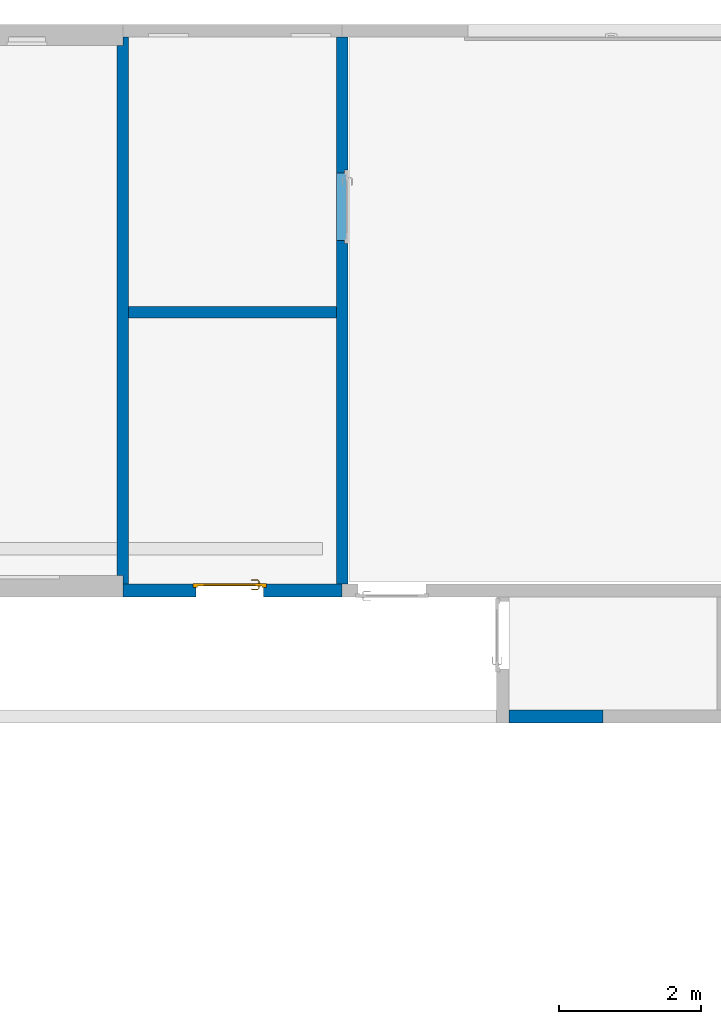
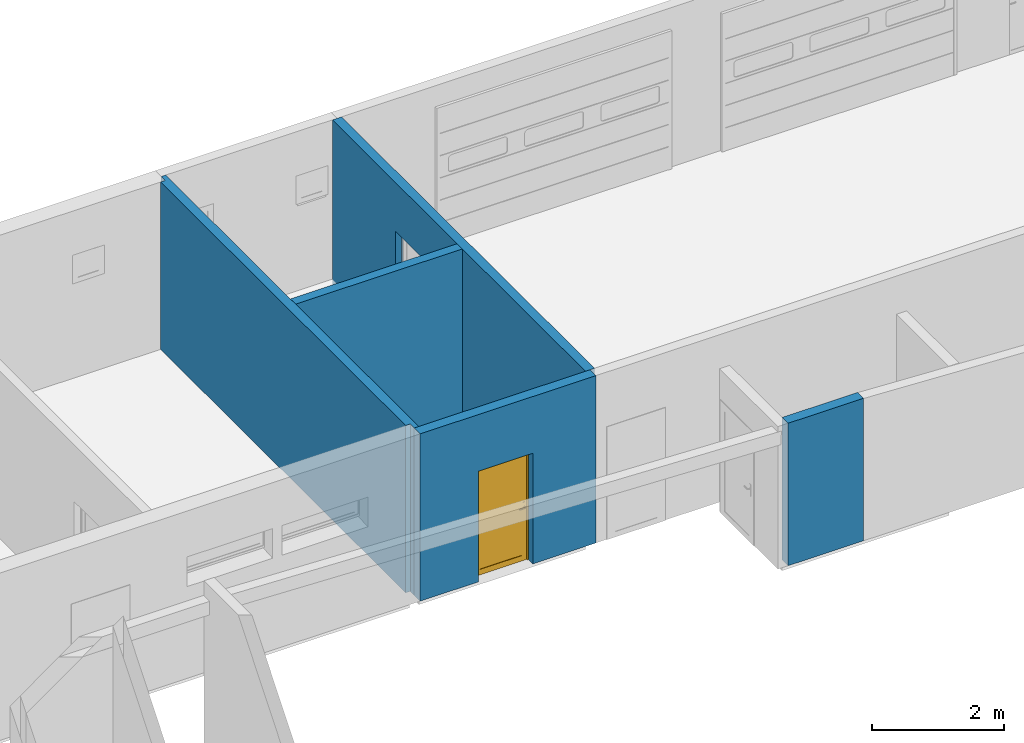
# One storey, part 3 of 9: 5 walls, 1 door, 2 openings.
"""IFC2X3 building model written with IfcOpenShell, lengths in metres."""

import ifcopenshell
import ifcopenshell.guid

model = None  # the IFC model being written
_history = None  # IfcOwnerHistory: only IFC2X3 demands one
_inside = {}  # id of a spatial element -> (the spatial element, [elements in it])
_under = {}  # id of a project, library or spatial element -> (it, [spatial elements below it])
_declared = {}  # id of a project -> (the project, [libraries it declares])
_typed = {}  # id of a type object -> (the type object, [elements of that type])
_made_of = {}  # id of a material, layer set ... -> (it, [elements and type objects made of it])


def new_model(schema):
    """Start an empty IFC model of exactly this schema.

    Asked for "IFC4X3", IfcOpenShell would pick the latest addendum, in which some entities
    have other attributes; the version numbers below select the first issue.
    IFC2X3 requires an IfcOwnerHistory on every rooted entity: one is made here for all.
    """
    global model, _history
    if schema == "IFC4X3":
        model = ifcopenshell.file(schema_version=(4, 3, 0, 0))
    else:
        model = ifcopenshell.file(schema=schema)
    _inside.clear()
    _under.clear()
    _declared.clear()
    _typed.clear()
    _made_of.clear()
    _history = None
    if model.schema == "IFC2X3":
        org = make("IfcOrganization", Name="unknown")
        user = make(
            "IfcPersonAndOrganization",
            ThePerson=make("IfcPerson", FamilyName="unknown"),
            TheOrganization=org,
        )
        app = make(
            "IfcApplication",
            ApplicationDeveloper=org,
            Version="unknown",
            ApplicationFullName="unknown",
            ApplicationIdentifier="unknown",
        )
        _history = make(
            "IfcOwnerHistory",
            OwningUser=user,
            OwningApplication=app,
            ChangeAction="ADDED",
            CreationDate=0,
        )
    return model


def make(cls, **values):
    """One entity of the class cls with the attributes given. An attribute that is None is left unset."""
    return model.create_entity(
        cls, **{name: value for name, value in values.items() if value is not None}
    )


def entity(cls, *values):
    """Any entity or typed value of the class cls, its attributes in the order of the schema. None: left unset."""
    e = model.create_entity(cls)
    for i, value in enumerate(values):
        if value is not None:
            e[i] = value
    return e


def rooted(cls, **values):
    """An entity with a GlobalId (a new one), such as an element, a storey or a relation."""
    return make(cls, GlobalId=ifcopenshell.guid.new(), OwnerHistory=_history, **values)


def si_unit(unit_type, name, prefix=None):
    """IfcSIUnit, for example si_unit("LENGTHUNIT", "METRE", prefix="MILLI")."""
    return make("IfcSIUnit", UnitType=unit_type, Prefix=prefix, Name=name)


def converted_unit(unit_type, name, factor, base, dimensions=None, offset=None):
    """IfcConversionBasedUnit, such as the inch: factor (a typed value) times the base unit."""
    return make(
        "IfcConversionBasedUnit"
        if offset is None
        else "IfcConversionBasedUnitWithOffset",
        ConversionOffset=offset,
        Dimensions=None
        if dimensions is None
        else entity("IfcDimensionalExponents", *dimensions),
        UnitType=unit_type,
        Name=name,
        ConversionFactor=make(
            "IfcMeasureWithUnit", ValueComponent=factor, UnitComponent=base
        ),
    )


def derived_unit(unit_type, elements):
    """IfcDerivedUnit: a product of units, each with its exponent."""
    return make(
        "IfcDerivedUnit",
        Elements=[
            make("IfcDerivedUnitElement", Unit=unit, Exponent=power)
            for unit, power in elements
        ],
        UnitType=unit_type,
    )


def assignment(units):
    """IfcUnitAssignment: the units of a project."""
    return None if units is None else make("IfcUnitAssignment", Units=units)


def point(xyz):
    """IfcCartesianPoint."""
    return None if xyz is None else make("IfcCartesianPoint", Coordinates=xyz)


def direction(xyz):
    """IfcDirection."""
    return None if xyz is None else make("IfcDirection", DirectionRatios=xyz)


def frame(location, z_axis=None, x_axis=None):
    """IfcAxis2Placement3D, a coordinate frame: its origin and axes. An axis left out is left unset."""
    return make(
        "IfcAxis2Placement3D",
        Location=point(location),
        Axis=direction(z_axis),
        RefDirection=direction(x_axis),
    )


def frame_2d(location, x_axis=None):
    """IfcAxis2Placement2D, a coordinate frame in the plane: its origin and x axis."""
    return make(
        "IfcAxis2Placement2D", Location=point(location), RefDirection=direction(x_axis)
    )


def origin():
    """The frame at (0, 0, 0) with its axes left unset."""
    return frame((0.0, 0.0, 0.0))


def place(relative_to, where):
    """IfcLocalPlacement: puts the frame where relative to a parent placement (None: the world)."""
    return make(
        "IfcLocalPlacement", PlacementRelTo=relative_to, RelativePlacement=where
    )


def context(
    kind, dimensions, precision=None, world=None, true_north=None, identifier=None
):
    """IfcGeometricRepresentationContext, for example the 3D "Model" context."""
    return make(
        "IfcGeometricRepresentationContext",
        ContextIdentifier=identifier,
        ContextType=kind,
        CoordinateSpaceDimension=dimensions,
        Precision=precision,
        WorldCoordinateSystem=world,
        TrueNorth=true_north,
    )


def subcontext(parent, identifier, kind, view, scale=None):
    """IfcGeometricRepresentationSubContext, for example "Body" below "Model"."""
    return make(
        "IfcGeometricRepresentationSubContext",
        ContextIdentifier=identifier,
        ContextType=kind,
        ParentContext=parent,
        TargetScale=scale,
        TargetView=view,
    )


def project(units=None, contexts=None):
    """IfcProject with its units and contexts."""
    return rooted(
        "IfcProject",
        Name="project",
        RepresentationContexts=contexts,
        UnitsInContext=assignment(units),
    )


def spatial(cls, under=None, at=None, **own):
    """A site, building, storey or space (cls), placed at a placement, below another one or the project."""
    s = rooted(cls, ObjectPlacement=at, **own)
    if under is not None:
        _under.setdefault(under.id(), (under, []))[1].append(s)
    return s


def polyline(points):
    """IfcPolyline through the points."""
    return make("IfcPolyline", Points=[point(p) for p in points])


def profile(cls, at=None, kind="AREA", **sizes):
    """A parametric profile (cls). Its sizes go by their IFC names, for example OverallWidth=200.0."""
    return make(cls, ProfileType=kind, Position=at, **sizes)


def rectangle(**sizes):
    """IfcRectangleProfileDef."""
    return profile("IfcRectangleProfileDef", **sizes)


def outline(outer, holes=None, kind="AREA"):
    """IfcArbitraryClosedProfileDef: a profile drawn as a closed curve; with holes, ...WithVoids."""
    if holes is None:
        return make("IfcArbitraryClosedProfileDef", ProfileType=kind, OuterCurve=outer)
    return make(
        "IfcArbitraryProfileDefWithVoids",
        ProfileType=kind,
        OuterCurve=outer,
        InnerCurves=holes,
    )


def extrude(swept, where, along, depth):
    """IfcExtrudedAreaSolid: the profile swept, set in the frame where, extruded along a direction by depth."""
    return make(
        "IfcExtrudedAreaSolid",
        SweptArea=swept,
        Position=where,
        ExtrudedDirection=direction(along),
        Depth=depth,
    )


def clip(a, b, op="DIFFERENCE"):
    """IfcBooleanClippingResult: the solid a cut by the half space b."""
    return make(
        "IfcBooleanClippingResult", Operator=op, FirstOperand=a, SecondOperand=b
    )


def bounded_halfspace(plane, agree, where, boundary):
    """IfcPolygonalBoundedHalfSpace: a half space limited to a polygon's prism."""
    return make(
        "IfcPolygonalBoundedHalfSpace",
        BaseSurface=make("IfcPlane", Position=plane),
        AgreementFlag=agree,
        Position=where,
        PolygonalBoundary=boundary,
    )


def faces_of(points, faces, orient=None, outer=None):
    """IfcFace entities. A face is a list of loops; a loop is a list of indices into points, from 0.

    orient and outer hold one flag for each loop. By default every Orientation is true, the
    first loop of a face is its IfcFaceOuterBound and the others are IfcFaceBound.
    """
    made = []
    for i, loops in enumerate(faces):
        bounds = []
        for j, loop in enumerate(loops):
            is_outer = j == 0 if outer is None else outer[i][j]
            bounds.append(
                make(
                    "IfcFaceOuterBound" if is_outer else "IfcFaceBound",
                    Bound=make("IfcPolyLoop", Polygon=[points[k] for k in loop]),
                    Orientation=True if orient is None else orient[i][j],
                )
            )
        made.append(make("IfcFace", Bounds=bounds))
    return made


def faceted_brep(points, faces, orient=None, outer=None, voids=None):
    """IfcFacetedBrep: a solid bounded by flat faces; with voids (closed shells), ...WithVoids."""
    shared = [point(p) for p in points]
    hull = make("IfcClosedShell", CfsFaces=faces_of(shared, faces, orient, outer))
    if voids is None:
        return make("IfcFacetedBrep", Outer=hull)
    return make(
        "IfcFacetedBrepWithVoids",
        Outer=hull,
        Voids=[
            make(cls, CfsFaces=faces_of(shared, fs, o, b)) for cls, fs, o, b in voids
        ],
    )


def shape(context_of_items, identifier, shape_type, items):
    """IfcShapeRepresentation: the items that make up one representation, for example the "Body"."""
    return make(
        "IfcShapeRepresentation",
        ContextOfItems=context_of_items,
        RepresentationIdentifier=identifier,
        RepresentationType=shape_type,
        Items=items,
    )


def source(mapping_origin, context_of_items, identifier, shape_type, items):
    """IfcRepresentationMap: a shape defined once, which mapped items show again and again."""
    return make(
        "IfcRepresentationMap",
        MappingOrigin=mapping_origin,
        MappedRepresentation=shape(context_of_items, identifier, shape_type, items),
    )


def transform(
    local_origin,
    x_axis=None,
    y_axis=None,
    z_axis=None,
    scale=None,
    scale2=None,
    scale3=None,
    uniform=True,
):
    """IfcCartesianTransformationOperator3D, or its non-uniform kind. x_axis, y_axis, z_axis: its Axis1, 2, 3."""
    if uniform:
        return make(
            "IfcCartesianTransformationOperator3D",
            Axis1=direction(x_axis),
            Axis2=direction(y_axis),
            LocalOrigin=point(local_origin),
            Scale=scale,
            Axis3=direction(z_axis),
        )
    return make(
        "IfcCartesianTransformationOperator3DnonUniform",
        Axis1=direction(x_axis),
        Axis2=direction(y_axis),
        LocalOrigin=point(local_origin),
        Scale=scale,
        Axis3=direction(z_axis),
        Scale2=scale2,
        Scale3=scale3,
    )


def mapped(mapping_source, mapping_target):
    """IfcMappedItem: shows the shape of a source again, moved by a transform."""
    return make(
        "IfcMappedItem", MappingSource=mapping_source, MappingTarget=mapping_target
    )


def material(Name=None, Category=None):
    """IfcMaterial."""
    return make("IfcMaterial", Name=Name, Category=Category)


def layer(
    of_material, thickness, ventilated=None, Name=None, Category=None, Priority=None
):
    """IfcMaterialLayer: one layer of a wall or slab, of a material (None: an air gap)."""
    return make(
        "IfcMaterialLayer",
        Material=of_material,
        LayerThickness=thickness,
        IsVentilated=ventilated,
        Name=Name,
        Category=Category,
        Priority=Priority,
    )


def layer_set(layers, Name=None):
    """IfcMaterialLayerSet."""
    return make("IfcMaterialLayerSet", MaterialLayers=layers, LayerSetName=Name)


def layer_usage(for_layer_set, set_direction, sense, offset, extent=None):
    """IfcMaterialLayerSetUsage: how a layer set lies in its element."""
    return make(
        "IfcMaterialLayerSetUsage",
        ForLayerSet=for_layer_set,
        LayerSetDirection=set_direction,
        DirectionSense=sense,
        OffsetFromReferenceLine=offset,
        ReferenceExtent=extent,
    )


def made_of(thing, what):
    """Note that an element or type object is made of a material, layer set ...; save() writes the relation."""
    if what is not None:
        _made_of.setdefault(what.id(), (what, []))[1].append(thing)
    return thing


def type_object(cls, material=None, **own):
    """A type object (cls), such as IfcWallType, which elements share."""
    return made_of(rooted(cls, **own), material)


def type_shapes(of_type, sources):
    """Give a type object the sources (RepresentationMaps) that its elements show as mapped items."""
    of_type.RepresentationMaps = sources


def element(
    cls,
    number,
    at=None,
    inside=None,
    cuts=None,
    type_object=None,
    material=None,
    context=None,
    identifier="Body",
    shape_type=None,
    held_by="IfcProductDefinitionShape",
    body=None,
    shapes=None,
    **own,
):
    """One element of the class cls, such as IfcWall. Its Tag is "e" and its number.

    at: its placement. inside: the storey or other place that contains it. cuts: it is an
    opening in that element (IfcRelVoidsElement). A single representation is given by context,
    identifier, shape_type and body (its items); several are given by shapes. held_by: the class
    of the entity that holds the representations. save() writes the other relations.
    """
    e = rooted(cls, Tag="e%d" % number, ObjectPlacement=at, **own)
    if body is not None:
        shapes = [shape(context, identifier, shape_type, body)]
    if shapes is not None:
        e.Representation = make(held_by, Representations=shapes)
    if inside is not None:
        _inside.setdefault(inside.id(), (inside, []))[1].append(e)
    if cuts is not None:
        rooted(
            "IfcRelVoidsElement", RelatingBuildingElement=cuts, RelatedOpeningElement=e
        )
    if type_object is not None:
        _typed.setdefault(type_object.id(), (type_object, []))[1].append(e)
    return made_of(e, material)


def fill(opening, filler):
    """IfcRelFillsElement: the door or window that sits in an opening."""
    return rooted(
        "IfcRelFillsElement",
        RelatingOpeningElement=opening,
        RelatedBuildingElement=filler,
    )


def aggregate(whole, parts):
    """IfcRelAggregates: a whole, such as a stair, and the parts it consists of."""
    return rooted("IfcRelAggregates", RelatingObject=whole, RelatedObjects=parts)


def save(model, path):
    """Write the relations noted so far, then the file.

    IfcRelAggregates (storeys below a building ...), IfcRelContainedInSpatialStructure (elements
    in a storey), IfcRelDefinesByType, IfcRelAssociatesMaterial and IfcRelDeclares: one each for
    every whole, place, type object, material and project.
    """
    for whole, parts in _under.values():
        aggregate(whole, parts)
    for where, things in _inside.values():
        rooted(
            "IfcRelContainedInSpatialStructure",
            RelatedElements=things,
            RelatingStructure=where,
        )
    for kind, things in _typed.values():
        rooted("IfcRelDefinesByType", RelatedObjects=things, RelatingType=kind)
    for what, things in _made_of.values():
        rooted("IfcRelAssociatesMaterial", RelatedObjects=things, RelatingMaterial=what)
    for by, libraries in _declared.values():
        rooted("IfcRelDeclares", RelatingContext=by, RelatedDefinitions=libraries)
    model.write(path)


model = new_model("IFC2X3")

# Units and contexts
model_context = context("Model", 3, precision=1e-05, world=origin(), true_north=direction((6.12303176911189e-17, 1.0)))
body_context = subcontext(model_context, "Body", "Model", "MODEL_VIEW")
ifc_project = project(units=[si_unit("LENGTHUNIT", "METRE"), si_unit("AREAUNIT", "SQUARE_METRE"), si_unit("VOLUMEUNIT", "CUBIC_METRE"), converted_unit("PLANEANGLEUNIT", "DEGREE", entity("IfcRatioMeasure", 0.0174532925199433), si_unit("PLANEANGLEUNIT", "RADIAN"), dimensions=[0, 0, 0, 0, 0, 0, 0]), si_unit("MASSUNIT", "GRAM", prefix="KILO"), derived_unit("MASSDENSITYUNIT", [(si_unit("MASSUNIT", "GRAM", prefix="KILO"), 1), (si_unit("LENGTHUNIT", "METRE"), -3)]), si_unit("TIMEUNIT", "SECOND"), si_unit("FREQUENCYUNIT", "HERTZ"), si_unit("THERMODYNAMICTEMPERATUREUNIT", "DEGREE_CELSIUS"), derived_unit("THERMALTRANSMITTANCEUNIT", [(si_unit("MASSUNIT", "GRAM", prefix="KILO"), 1), (si_unit("THERMODYNAMICTEMPERATUREUNIT", "KELVIN"), -1), (si_unit("TIMEUNIT", "SECOND"), -3)]), derived_unit("VOLUMETRICFLOWRATEUNIT", [(si_unit("LENGTHUNIT", "METRE"), 3), (si_unit("TIMEUNIT", "SECOND"), -1)]), si_unit("ELECTRICCURRENTUNIT", "AMPERE"), si_unit("ELECTRICVOLTAGEUNIT", "VOLT"), si_unit("POWERUNIT", "WATT"), si_unit("FORCEUNIT", "NEWTON", prefix="KILO"), si_unit("ILLUMINANCEUNIT", "LUX"), si_unit("LUMINOUSFLUXUNIT", "LUMEN"), si_unit("LUMINOUSINTENSITYUNIT", "CANDELA"), derived_unit("USERDEFINED", [(si_unit("MASSUNIT", "GRAM", prefix="KILO"), -1), (si_unit("LENGTHUNIT", "METRE"), -2), (si_unit("TIMEUNIT", "SECOND"), 3), (si_unit("LUMINOUSFLUXUNIT", "LUMEN"), 1)]), derived_unit("LINEARVELOCITYUNIT", [(si_unit("LENGTHUNIT", "METRE"), 1), (si_unit("TIMEUNIT", "SECOND"), -1)]), si_unit("PRESSUREUNIT", "PASCAL"), derived_unit("USERDEFINED", [(si_unit("LENGTHUNIT", "METRE"), -2), (si_unit("MASSUNIT", "GRAM", prefix="KILO"), 1), (si_unit("TIMEUNIT", "SECOND"), -2)])], contexts=[model_context])

# Site, building, storey
site_placement = place(None, origin())
site = spatial("IfcSite", under=ifc_project, at=site_placement, Name="Default", CompositionType="ELEMENT")
building_placement = place(site_placement, origin())
building = spatial("IfcBuilding", under=site, at=building_placement, CompositionType="ELEMENT")
storey_placement = place(building_placement, origin())
storey = spatial("IfcBuildingStorey", under=building, at=storey_placement, Name="Niveau 0", CompositionType="ELEMENT", Elevation=-1.94916083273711e-14)

# Wall, opening, door
ifc_material_1 = material(Name="Maçonnerie - Voile BA")
ifc_layer_1 = layer(ifc_material_1, 0.18)
ifc_layer_set_1 = layer_set([ifc_layer_1], Name="Mur de base:Ext. Voile BA 18")
ifc_layer_usage_1 = layer_usage(ifc_layer_set_1, "AXIS2", "NEGATIVE", 0.09)
wall_type_1 = type_object("IfcWallType", Name="Mur de base:Ext. Voile BA 18", PredefinedType="NOTDEFINED")
wall_1_placement = place(storey_placement, frame((6.36053863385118, -4.94088141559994, 0.0), z_axis=(0.0, 0.0, 1.0), x_axis=(-1.0, 0.0, 0.0)))
wall_1 = element("IfcWallStandardCase", 1, at=wall_1_placement, inside=storey, type_object=wall_type_1, material=ifc_layer_usage_1, Name="Mur de base:Ext. Voile BA 18", ObjectType="Mur de base:Ext. Voile BA 18", context=body_context, shape_type="Clipping", body=[
    clip(extrude(rectangle(XDim=3.08000000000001, YDim=0.18, at=frame_2d((1.54, 5.48172618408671e-16), x_axis=(-1.0, 0.0))), origin(), (0.0, 0.0, 1.0), 3.10000000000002), bounded_halfspace(frame((0.0, -0.0899999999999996, 3.10000000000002), z_axis=(0.0, 0.0, -1.0), x_axis=(-1.0, 0.0, 0.0)), True, frame((0.0, -0.0899999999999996, 3.10000000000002)), polyline([(0.0, 0.0), (0.0800000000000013, 0.0), (3.0, 0.0), (3.08000000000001, 0.0), (3.08000000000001, 0.175000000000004), (0.0, 0.175000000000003), (0.0, 0.0)]))),
])
opening_1_placement = place(wall_1_placement, frame((2.09499999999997, 0.390000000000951, 0.0), z_axis=(0.0, 0.0, 1.0), x_axis=(-1.0, 0.0, 0.0)))
opening_1 = element("IfcOpeningElement", 2, at=opening_1_placement, cuts=wall_1, Name="Mur de base:Ext. Voile BA 18", ObjectType="Opening", context=body_context, shape_type="Brep", body=[
    faceted_brep([(0.0400000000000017, 0.780000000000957, 2.05000000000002), (0.0400000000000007, 0.480000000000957, 2.05000000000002), (0.989999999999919, 0.480000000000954, 2.05000000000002), (0.98999999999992, 0.780000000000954, 2.05000000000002), (0.039999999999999, 0.0, 0.0), (0.0400000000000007, 0.430000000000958, 0.0), (0.0, 0.430000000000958, 0.0), (0.0, 0.480000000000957, 0.0), (0.0400000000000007, 0.480000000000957, 0.0), (0.0400000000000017, 0.780000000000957, 0.0), (0.98999999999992, 0.780000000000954, 0.0), (0.989999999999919, 0.480000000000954, 0.0), (1.02999999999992, 0.480000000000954, 0.0), (1.02999999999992, 0.430000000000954, 0.0), (0.989999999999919, 0.430000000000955, 0.0), (0.989999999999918, 0.0, 0.0), (0.039999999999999, 0.0, 2.05000000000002), (0.989999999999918, 0.0, 2.05000000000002), (0.0400000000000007, 0.430000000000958, 2.05000000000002), (0.0, 0.480000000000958, 2.09000000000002), (1.02999999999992, 0.480000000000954, 2.09000000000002), (1.02999999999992, 0.430000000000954, 2.09000000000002), (0.0, 0.430000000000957, 2.09000000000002), (0.989999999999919, 0.430000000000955, 2.05000000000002)], [[[0, 1, 2, 3]], [[4, 5, 6, 7, 8, 9, 10, 11, 12, 13, 14, 15]], [[16, 4, 15, 17]], [[3, 2, 11, 10]], [[3, 10, 9, 0]], [[16, 18, 5, 4]], [[11, 2, 1, 8, 7, 19, 20, 12]], [[12, 20, 21, 13]], [[13, 21, 22, 6, 5, 18, 23, 14]], [[19, 22, 21, 20]], [[7, 6, 22, 19]], [[9, 8, 1, 0]], [[15, 14, 23, 17]], [[17, 23, 18, 16]]]),
])
ifc_material_2 = material(Name="PVC - Blanc")
door_style = type_object("IfcDoorStyle", Name="0.93 x 2.04", ConstructionType="NOTDEFINED", OperationType="SINGLE_SWING_RIGHT", ParameterTakesPrecedence=False, Sizeable=False, material=ifc_material_2)
shared_shape = source(origin(), body_context, "Body", "Brep", [
    faceted_brep([(0.102974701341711, 0.335, 1.00778044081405), (0.0989999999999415, 0.335, 1.00699999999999), (0.0989999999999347, 0.335, 0.992999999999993), (0.102974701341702, 0.335, 0.992219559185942), (0.107025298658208, 0.335, 0.99221955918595), (0.11099999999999, 0.335, 0.993000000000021), (0.110999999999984, 0.335, 1.00699999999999), (0.107025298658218, 0.335, 1.00778044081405), (0.11099999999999, 0.357485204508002, 0.993000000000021), (0.11099999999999, 0.357485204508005, 1.00699999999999), (0.107025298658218, 0.359131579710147, 1.00778044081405), (0.120838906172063, 0.372945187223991, 1.00778044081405), (0.119161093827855, 0.376995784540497, 1.00778044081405), (0.102974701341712, 0.360809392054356, 1.00778044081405), (0.210684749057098, 0.366467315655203, 1.00778044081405), (0.213548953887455, 0.369331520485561, 1.00778044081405), (0.205884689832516, 0.376995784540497, 1.00778044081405), (0.204206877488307, 0.372945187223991, 1.00778044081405), (0.0989999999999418, 0.3624557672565, 1.00699999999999), (0.0989999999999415, 0.362455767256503, 0.992999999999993), (0.102974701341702, 0.36080939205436, 0.992219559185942), (0.119161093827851, 0.376995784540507, 0.992219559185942), (0.120838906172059, 0.372945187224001, 0.99221955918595), (0.107025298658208, 0.359131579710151, 0.99221955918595), (0.213548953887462, 0.369331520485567, 0.992219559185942), (0.210684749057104, 0.366467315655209, 0.992219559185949), (0.204206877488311, 0.372945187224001, 0.992219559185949), (0.20588468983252, 0.376995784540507, 0.992219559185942), (0.122485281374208, 0.368970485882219, 0.993000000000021), (0.12248528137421, 0.368970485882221, 1.00699999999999), (0.117514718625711, 0.380970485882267, 1.00699999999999), (0.117514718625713, 0.38097048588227, 0.992999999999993), (0.162522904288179, 0.368970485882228, 0.993000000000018), (0.202560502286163, 0.368970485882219, 0.993000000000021), (0.202560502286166, 0.368970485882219, 1.00699999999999), (0.162522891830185, 0.368970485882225, 1.00699999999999), (0.162522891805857, 0.375124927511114, 1.00787811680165), (0.20753106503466, 0.380970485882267, 1.00699999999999), (0.167600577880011, 0.380970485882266, 1.00699999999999), (0.207531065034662, 0.380970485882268, 0.992999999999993), (0.157445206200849, 0.380970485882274, 0.992999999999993), (0.162522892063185, 0.375124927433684, 0.992121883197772), (0.207874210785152, 0.363656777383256, 0.993000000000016), (0.216359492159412, 0.372142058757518, 0.992999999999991), (0.216359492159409, 0.372142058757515, 1.00699999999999), (0.20787421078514, 0.363656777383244, 1.00699999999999)], [[[0, 1, 2, 3, 4, 5, 6, 7]], [[6, 5, 8, 9]], [[9, 10, 7, 6]], [[10, 11, 12, 13, 0, 7]], [[14, 15, 16, 17]], [[13, 18, 1, 0]], [[2, 1, 18, 19]], [[19, 20, 3, 2]], [[20, 21, 22, 23, 4, 3]], [[24, 25, 26, 27]], [[23, 8, 5, 4]], [[9, 8, 28, 29]], [[29, 11, 10, 9]], [[12, 30, 18, 13]], [[19, 18, 30, 31]], [[31, 21, 20, 19]], [[22, 28, 8, 23]], [[29, 28, 32, 33, 34, 35]], [[11, 35, 36]], [[16, 37, 38]], [[30, 12, 38]], [[38, 12, 36]], [[36, 35, 17]], [[17, 16, 36]], [[35, 11, 29]], [[34, 17, 35]], [[11, 36, 12]], [[38, 36, 16]], [[31, 30, 38, 37, 39, 40]], [[40, 41, 21]], [[41, 40, 27]], [[21, 31, 40]], [[39, 27, 40]], [[41, 32, 22]], [[22, 21, 41]], [[26, 32, 41]], [[28, 22, 32]], [[32, 26, 33]], [[26, 41, 27]], [[42, 25, 24, 43, 44, 15, 14, 45]], [[34, 33, 42, 45]], [[45, 14, 17, 34]], [[15, 44, 37, 16]], [[39, 37, 44, 43]], [[43, 24, 27, 39]], [[25, 42, 33, 26]]]),
    faceted_brep([(0.102974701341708, 0.285, 1.00778044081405), (0.107025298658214, 0.285, 1.00778044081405), (0.110999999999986, 0.285, 1.00699999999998), (0.11099999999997, 0.285, 0.993000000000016), (0.107025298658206, 0.285, 0.99221955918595), (0.1029747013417, 0.285, 0.992219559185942), (0.0989999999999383, 0.285, 0.992999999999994), (0.0989999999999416, 0.285, 1.00699999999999), (0.0989999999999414, 0.257349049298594, 1.00699999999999), (0.102974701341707, 0.258995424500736, 1.00778044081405), (0.11902358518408, 0.242946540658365, 1.00778044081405), (0.120701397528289, 0.246997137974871, 1.00778044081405), (0.107025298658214, 0.260673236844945, 1.00778044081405), (0.21352181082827, 0.250610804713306, 1.00778044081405), (0.210657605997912, 0.253475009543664, 1.00778044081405), (0.204179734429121, 0.246997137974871, 1.00778044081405), (0.20585754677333, 0.242946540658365, 1.00778044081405), (0.110999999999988, 0.26231961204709, 1.00699999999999), (0.110999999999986, 0.262319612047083, 0.993000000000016), (0.107025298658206, 0.260673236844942, 0.99221955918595), (0.120701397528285, 0.246997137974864, 0.99221955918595), (0.119023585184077, 0.242946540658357, 0.992219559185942), (0.1029747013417, 0.258995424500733, 0.992219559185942), (0.210657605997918, 0.253475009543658, 0.992219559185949), (0.213521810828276, 0.250610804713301, 0.992219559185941), (0.205857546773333, 0.242946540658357, 0.992219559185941), (0.204179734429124, 0.246997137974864, 0.992219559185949), (0.0989999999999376, 0.257349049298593, 0.992999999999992), (0.117377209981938, 0.238971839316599, 1.00699999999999), (0.122347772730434, 0.250971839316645, 1.00699999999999), (0.122347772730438, 0.250971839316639, 0.993000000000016), (0.117377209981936, 0.238971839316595, 0.992999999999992), (0.157307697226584, 0.238971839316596, 1.00699999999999), (0.162440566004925, 0.2448171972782, 1.00787811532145), (0.207503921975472, 0.238971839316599, 1.00699999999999), (0.162440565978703, 0.250971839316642, 1.00699999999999), (0.202533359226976, 0.250971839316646, 1.00699999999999), (0.202533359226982, 0.250971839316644, 0.993000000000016), (0.162440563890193, 0.250971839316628, 0.993000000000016), (0.1624405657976, 0.244817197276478, 0.992121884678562), (0.207503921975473, 0.238971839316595, 0.992999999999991), (0.167573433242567, 0.238971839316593, 0.992999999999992), (0.207847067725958, 0.256285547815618, 1.00699999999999), (0.216332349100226, 0.24780026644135, 1.00699999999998), (0.216332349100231, 0.247800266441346, 0.992999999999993), (0.207847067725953, 0.256285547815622, 0.993000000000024)], [[[0, 1, 2, 3, 4, 5, 6, 7]], [[8, 9, 0, 7]], [[9, 10, 11, 12, 1, 0]], [[13, 14, 15, 16]], [[12, 17, 2, 1]], [[3, 2, 17, 18]], [[18, 19, 4, 3]], [[19, 20, 21, 22, 5, 4]], [[23, 24, 25, 26]], [[22, 27, 6, 5]], [[7, 6, 27, 8]], [[28, 10, 9, 8]], [[11, 29, 17, 12]], [[18, 17, 29, 30]], [[30, 20, 19, 18]], [[21, 31, 27, 22]], [[8, 27, 31, 28]], [[32, 33, 10]], [[33, 32, 16]], [[10, 28, 32]], [[34, 16, 32]], [[33, 35, 11]], [[11, 10, 33]], [[15, 35, 33]], [[29, 11, 35]], [[35, 15, 36]], [[15, 33, 16]], [[30, 29, 35, 36, 37, 38]], [[20, 38, 39]], [[25, 40, 41]], [[31, 21, 41]], [[41, 21, 39]], [[39, 38, 26]], [[26, 25, 39]], [[38, 20, 30]], [[37, 26, 38]], [[20, 39, 21]], [[41, 39, 25]], [[28, 31, 41, 40, 34, 32]], [[42, 14, 13, 43, 44, 24, 23, 45]], [[43, 13, 16, 34]], [[14, 42, 36, 15]], [[37, 36, 42, 45]], [[45, 23, 26, 37]], [[24, 44, 40, 25]], [[34, 40, 44, 43]]]),
    faceted_brep([(0.11535276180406, 0.33, 0.866003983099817), (0.124999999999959, 0.33, 0.870000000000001), (0.124999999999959, 0.33, 1.08), (0.11535276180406, 0.33, 1.08399601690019), (0.104999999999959, 0.33, 1.08535898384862), (0.0946472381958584, 0.33, 1.08399601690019), (0.0849999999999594, 0.33, 1.08), (0.0849999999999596, 0.33, 0.870000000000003), (0.0946472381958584, 0.33, 0.866003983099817), (0.104999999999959, 0.33, 0.86464101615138), (0.11535276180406, 0.335, 1.08399601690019), (0.124999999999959, 0.335, 1.08), (0.124999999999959, 0.335, 0.870000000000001), (0.11535276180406, 0.335, 0.866003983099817), (0.104999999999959, 0.335, 0.86464101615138), (0.0946472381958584, 0.335, 0.866003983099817), (0.0849999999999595, 0.335, 0.870000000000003), (0.0849999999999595, 0.335, 1.08), (0.0946472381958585, 0.335, 1.08399601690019), (0.104999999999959, 0.335, 1.08535898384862)], [[[0, 1, 2, 3, 4, 5, 6, 7, 8, 9]], [[10, 11, 12, 13, 14, 15, 16, 17, 18, 19]], [[11, 10, 3, 2]], [[3, 10, 19, 4]], [[19, 18, 5, 4]], [[18, 17, 6, 5]], [[7, 6, 17, 16]], [[16, 15, 8, 7]], [[8, 15, 14, 9]], [[14, 13, 0, 9]], [[13, 12, 1, 0]], [[2, 1, 12, 11]]]),
    faceted_brep([(0.11535276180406, 0.285, 0.866003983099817), (0.124999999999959, 0.285, 0.870000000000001), (0.124999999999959, 0.285, 1.08), (0.11535276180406, 0.285, 1.08399601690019), (0.104999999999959, 0.285, 1.08535898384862), (0.0946472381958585, 0.285, 1.08399601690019), (0.0849999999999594, 0.285, 1.08), (0.0849999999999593, 0.285, 0.870000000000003), (0.0946472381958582, 0.285, 0.866003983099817), (0.104999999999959, 0.285, 0.86464101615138), (0.11535276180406, 0.29, 1.08399601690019), (0.124999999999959, 0.29, 1.08), (0.124999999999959, 0.29, 0.870000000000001), (0.11535276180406, 0.29, 0.866003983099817), (0.104999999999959, 0.29, 0.86464101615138), (0.0946472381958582, 0.29, 0.866003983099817), (0.0849999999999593, 0.29, 0.870000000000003), (0.0849999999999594, 0.29, 1.08), (0.0946472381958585, 0.29, 1.08399601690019), (0.104999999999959, 0.29, 1.08535898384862)], [[[0, 1, 2, 3, 4, 5, 6, 7, 8, 9]], [[10, 11, 12, 13, 14, 15, 16, 17, 18, 19]], [[16, 15, 8, 7]], [[8, 15, 14, 9]], [[14, 13, 0, 9]], [[13, 12, 1, 0]], [[2, 1, 12, 11]], [[11, 10, 3, 2]], [[3, 10, 19, 4]], [[19, 18, 5, 4]], [[18, 17, 6, 5]], [[7, 6, 17, 16]]]),
    faceted_brep([(0.0, 0.29, 0.0), (0.0, 0.35, 0.0), (0.0649999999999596, 0.35, 0.0), (0.0649999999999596, 0.33, 0.0), (0.0499999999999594, 0.33, 0.0), (0.0499999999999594, 0.29, 0.0), (0.0, 0.29, 2.09000000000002), (0.0, 0.35, 2.09000000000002), (1.02999999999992, 0.35, 2.09000000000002), (1.02999999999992, 0.35, 0.0), (0.964999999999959, 0.35, 0.0), (0.964999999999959, 0.35, 2.02500000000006), (0.0649999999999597, 0.35, 2.02500000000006), (0.0649999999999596, 0.33, 2.02500000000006), (0.964999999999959, 0.33, 2.02500000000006), (0.964999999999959, 0.33, 0.0), (0.979999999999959, 0.33, 0.0), (0.97999999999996, 0.33, 2.04000000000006), (0.0499999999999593, 0.33, 2.04000000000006), (0.0499999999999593, 0.29, 2.04000000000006), (0.979999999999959, 0.29, 2.04000000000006), (0.97999999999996, 0.29, 0.0), (1.02999999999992, 0.29, 0.0), (1.02999999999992, 0.29, 2.09000000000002)], [[[0, 1, 2, 3, 4, 5]], [[1, 0, 6, 7]], [[2, 1, 7, 8, 9, 10, 11, 12]], [[3, 2, 12, 13]], [[4, 3, 13, 14, 15, 16, 17, 18]], [[5, 4, 18, 19]], [[0, 5, 19, 20, 21, 22, 23, 6]], [[9, 8, 23, 22]], [[10, 9, 22, 21, 16, 15]], [[11, 10, 15, 14]], [[17, 16, 21, 20]], [[7, 6, 23, 8]], [[12, 11, 14, 13]], [[18, 17, 20, 19]]]),
    faceted_brep([(0.0499999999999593, 0.29, 2.04000000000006), (0.0499999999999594, 0.29, 0.0), (0.97999999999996, 0.29, 0.0), (0.97999999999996, 0.29, 2.04000000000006), (0.880000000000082, 0.29, 1.95000000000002), (0.88000000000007, 0.29, 0.0999999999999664), (0.150000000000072, 0.29, 0.0999999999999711), (0.150000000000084, 0.29, 1.95000000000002), (0.0499999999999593, 0.33, 2.04000000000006), (0.97999999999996, 0.33, 2.04000000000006), (0.97999999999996, 0.33, 0.0), (0.0499999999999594, 0.33, 0.0), (0.150000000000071, 0.33, 1.95000000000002), (0.150000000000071, 0.33, 0.100000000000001), (0.88000000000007, 0.33, 0.100000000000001), (0.880000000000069, 0.33, 1.95000000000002), (0.880000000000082, 0.298, 1.95000000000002), (0.150000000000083, 0.298, 1.95000000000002), (0.150000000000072, 0.298, 0.099999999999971), (0.88000000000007, 0.298, 0.0999999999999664), (0.150000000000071, 0.322, 1.95000000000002), (0.880000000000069, 0.322, 1.95000000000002), (0.88000000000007, 0.322, 0.100000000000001), (0.150000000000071, 0.322, 0.100000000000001)], [[[0, 1, 2, 3], [4, 5, 6, 7]], [[8, 9, 10, 11], [12, 13, 14, 15]], [[1, 0, 8, 11]], [[2, 1, 11, 10]], [[3, 2, 10, 9]], [[0, 3, 9, 8]], [[16, 17, 18, 19]], [[16, 19, 5, 4]], [[19, 18, 6, 5]], [[18, 17, 7, 6]], [[17, 16, 4, 7]], [[20, 21, 22, 23]], [[20, 23, 13, 12]], [[23, 22, 14, 13]], [[22, 21, 15, 14]], [[21, 20, 12, 15]]]),
])
type_shapes(door_style, [shared_shape])
door_placement = place(opening_1_placement, frame((1.02999999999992, 0.780000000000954, 0.0), z_axis=(0.0, 0.0, 1.0), x_axis=(-1.0, 0.0, 0.0)))
door = element("IfcDoor", 3, at=door_placement, inside=storey, type_object=door_style, material=ifc_material_2, Name="PVC Panneau Plein:0.93 x 2.04", ObjectType="0.93 x 2.04", OverallHeight=2.09000000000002, OverallWidth=1.02999999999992, context=body_context, shape_type="MappedRepresentation", body=[
    mapped(shared_shape, transform((0.0, 0.0, 0.0), scale=1.0)),
])
fill(opening_1, door)

# Walls
ifc_layer_usage_2 = layer_usage(ifc_layer_set_1, "AXIS2", "NEGATIVE", 0.09)
wall_2_placement = place(storey_placement, frame((10.0260412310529, -6.71088141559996, -0.17), z_axis=(0.0, 0.0, 1.0), x_axis=(-1.0, 0.0, 0.0)))
element("IfcWallStandardCase", 4, at=wall_2_placement, inside=storey, type_object=wall_type_1, material=ifc_layer_usage_2, Name="Mur de base:Ext. Voile BA 18", ObjectType="Mur de base:Ext. Voile BA 18", context=body_context, shape_type="SweptSolid", body=[
    extrude(rectangle(XDim=1.32000000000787, YDim=0.18, at=frame_2d((0.660000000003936, -2.63677968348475e-16), x_axis=(-1.0, 0.0))), origin(), (0.0, 0.0, 1.0), 2.64000000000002),
])
ifc_layer_2 = layer(ifc_material_1, 0.16)
ifc_layer_set_2 = layer_set([ifc_layer_2], Name="Mur de base:Refend. Voile BA 16")
ifc_layer_usage_3 = layer_usage(ifc_layer_set_2, "AXIS2", "NEGATIVE", 0.08)
wall_type_2 = type_object("IfcWallType", Name="Mur de base:Refend. Voile BA 16", PredefinedType="STANDARD", material=ifc_layer_set_2)
wall_3_placement = place(storey_placement, frame((3.28053863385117, -4.85088141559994, 0.0), z_axis=(0.0, 0.0, 1.0), x_axis=(0.0, 1.0, 0.0)))
element("IfcWallStandardCase", 5, at=wall_3_placement, inside=storey, type_object=wall_type_2, material=ifc_layer_usage_3, Name="Mur de base:Refend. Voile BA 16", ObjectType="Mur de base:Refend. Voile BA 16", context=body_context, shape_type="Clipping", body=[
    clip(extrude(outline(polyline([(7.67999999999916, -0.0799999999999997), (7.67999999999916, 0.0), (7.55999999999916, 0.0), (7.55999999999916, 0.08), (0.585021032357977, 0.0800000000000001), (0.405021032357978, 0.0800000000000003), (0.119999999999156, 0.0799999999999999), (0.119999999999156, 0.0), (0.0, 0.0), (0.0, -0.0799999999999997), (0.405021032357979, -0.0799999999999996), (0.585021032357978, -0.0799999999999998), (3.73645382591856, -0.0799999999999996), (3.89645382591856, -0.0799999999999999), (7.67999999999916, -0.0799999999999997)])), origin(), (0.0, 0.0, 1.0), 3.10000000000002), bounded_halfspace(frame((0.0, -0.0799999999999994, 3.10000000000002), z_axis=(0.0, 0.0, -1.0), x_axis=(0.0, -1.0, 0.0)), True, frame((0.0, -0.0799999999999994, 3.10000000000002)), polyline([(0.0, 0.0), (3.73645382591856, 0.0), (3.89645382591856, 0.0), (7.67999999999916, 0.0), (7.67999999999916, 0.0800000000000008), (7.55999999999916, 0.0799999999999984), (7.55999999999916, 0.16), (0.119999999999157, 0.16), (0.119999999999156, 0.0799999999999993), (0.0, 0.0799999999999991), (0.0, 0.0)]))),
])
ifc_layer_usage_4 = layer_usage(ifc_layer_set_2, "AXIS2", "NEGATIVE", 0.08)
wall_4_placement = place(storey_placement, frame((3.36053863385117, -1.03442758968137, 0.0)))
element("IfcWallStandardCase", 6, at=wall_4_placement, inside=storey, type_object=wall_type_2, material=ifc_layer_usage_4, Name="Mur de base:Refend. Voile BA 16", ObjectType="Mur de base:Refend. Voile BA 16", context=body_context, shape_type="Clipping", body=[
    clip(extrude(rectangle(XDim=2.92000000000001, YDim=0.16, at=frame_2d((1.46, -6.93889390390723e-18), x_axis=(-1.0, 0.0))), origin(), (0.0, 0.0, 1.0), 3.10000000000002), bounded_halfspace(frame((0.0, -0.0800000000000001, 3.10000000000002), z_axis=(0.0, 0.0, -1.0), x_axis=(1.0, 0.0, 0.0)), True, frame((0.0, -0.0800000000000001, 3.10000000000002)), polyline([(0.0, 0.0), (2.92000000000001, 0.0), (2.92000000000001, 0.16), (0.0, 0.16), (0.0, 0.0)]))),
])

# Wall, opening
ifc_layer_usage_5 = layer_usage(ifc_layer_set_2, "AXIS2", "NEGATIVE", 0.08)
wall_5_placement = place(storey_placement, frame((6.36053863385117, -4.85088141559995, 0.0), z_axis=(0.0, 0.0, 1.0), x_axis=(0.0, 1.0, 0.0)))
wall_5 = element("IfcWallStandardCase", 7, at=wall_5_placement, inside=storey, type_object=wall_type_2, material=ifc_layer_usage_5, Name="Mur de base:Refend. Voile BA 16", ObjectType="Mur de base:Refend. Voile BA 16", context=body_context, shape_type="Clipping", body=[
    clip(extrude(rectangle(XDim=7.67999999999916, YDim=0.16, at=frame_2d((3.83999999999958, 0.0), x_axis=(-1.0, 0.0))), origin(), (0.0, 0.0, 1.0), 3.10000000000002), bounded_halfspace(frame((0.0, -0.0800000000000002, 3.10000000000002), z_axis=(0.0, 0.0, -1.0), x_axis=(0.0, -1.0, 0.0)), True, frame((0.0, -0.0800000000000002, 3.10000000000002)), polyline([(0.0, 0.0), (7.67999999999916, 0.0), (7.67999999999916, 0.0800000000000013), (7.67999999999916, 0.16), (3.89645382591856, 0.16), (3.73645382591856, 0.160000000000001), (0.0, 0.16), (0.0, 0.0800000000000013), (0.0, 0.0)]))),
])
opening_2_placement = place(wall_5_placement, frame((4.78145382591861, 0.380000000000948, 0.15), z_axis=(0.0, 0.0, 1.0), x_axis=(0.0, -1.0, 0.0)))
element("IfcOpeningElement", 8, at=opening_2_placement, cuts=wall_5, Name="Mur de base:Refend. Voile BA 16", ObjectType="Opening", context=body_context, shape_type="Brep", body=[
    faceted_brep([(0.0, 0.98999999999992, 2.05000000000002), (0.0, 0.0400000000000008, 2.05000000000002), (0.410000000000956, 0.0400000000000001, 2.05000000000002), (0.410000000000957, 0.989999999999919, 2.05000000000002), (0.0, 0.0400000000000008, 0.0), (0.0, 0.98999999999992, 0.0), (0.410000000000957, 0.989999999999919, 0.0), (0.410000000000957, 1.02999999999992, 0.0), (0.460000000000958, 1.02999999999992, 0.0), (0.460000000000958, 0.989999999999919, 0.0), (0.760000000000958, 0.989999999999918, 0.0), (0.760000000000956, 0.0399999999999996, 0.0), (0.460000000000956, 0.0399999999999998, 0.0), (0.460000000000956, 0.0, 0.0), (0.410000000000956, 0.0, 0.0), (0.410000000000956, 0.04, 0.0), (0.760000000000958, 0.989999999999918, 2.05000000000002), (0.760000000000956, 0.0399999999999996, 2.05000000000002), (0.460000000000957, 1.02999999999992, 2.09000000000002), (0.460000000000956, 0.0, 2.09000000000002), (0.460000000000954, 0.0400000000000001, 2.05000000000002), (0.460000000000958, 0.989999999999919, 2.05000000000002), (0.410000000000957, 1.02999999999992, 2.09000000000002), (0.410000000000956, 0.0, 2.09000000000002)], [[[0, 1, 2, 3]], [[4, 5, 6, 7, 8, 9, 10, 11, 12, 13, 14, 15]], [[1, 0, 5, 4]], [[5, 0, 3, 6]], [[16, 17, 11, 10]], [[1, 4, 15, 2]], [[9, 8, 18, 19, 13, 12, 20, 21]], [[8, 7, 22, 18]], [[7, 6, 3, 2, 15, 14, 23, 22]], [[19, 18, 22, 23]], [[13, 19, 23, 14]], [[11, 17, 20, 12]], [[16, 10, 9, 21]], [[17, 16, 21, 20]]]),
])

save(model, "model.ifc")
